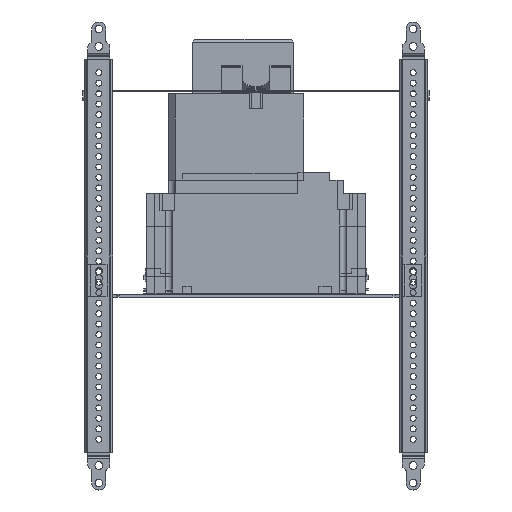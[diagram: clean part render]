
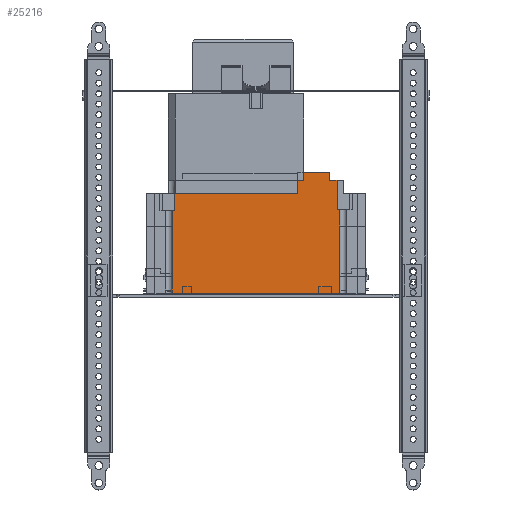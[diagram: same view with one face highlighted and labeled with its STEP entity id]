
A CAD part, left-side view. The second image highlights one B-rep face of the part: STEP entity #25216.
In plain terms, the highlighted planar face has unit normal (-1, 0, 0).
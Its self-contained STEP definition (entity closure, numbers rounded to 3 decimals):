
#13276=CARTESIAN_POINT(' ',(-266.811,-53.186,-65.147));
#13277=VERTEX_POINT(' ',#13276);
#13291=CARTESIAN_POINT(' ',(-266.811,-53.186,-65.147));
#13296=DIRECTION(' ',(0.,1.,0.));
#13301=VECTOR(' ',#13296,1.);
#13306=LINE('',#13291,#13301);
#13311=CARTESIAN_POINT(' ',(-266.811,59.234,-65.147));
#13312=VERTEX_POINT(' ',#13311);
#13316=EDGE_CURVE(' ',#13277,#13312,#13306,.T.);
#16686=CARTESIAN_POINT(' ',(-266.811,61.034,6.704));
#16687=VERTEX_POINT(' ',#16686);
#16701=CARTESIAN_POINT(' ',(-266.811,-26.993,6.704));
#16706=DIRECTION(' ',(0.,1.,0.));
#16711=VECTOR(' ',#16706,1.);
#16716=LINE('',#16701,#16711);
#16721=CARTESIAN_POINT(' ',(-266.811,-26.993,6.704));
#16722=VERTEX_POINT(' ',#16721);
#16726=EDGE_CURVE(' ',#16722,#16687,#16716,.T.);
#24631=CARTESIAN_POINT(' ',(-266.811,-53.186,-65.147));
#24636=DIRECTION(' ',(0.,0.,1.));
#24641=VECTOR(' ',#24636,1.);
#24646=LINE('',#24631,#24641);
#24651=CARTESIAN_POINT(' ',(-266.811,-53.186,-64.647));
#24652=VERTEX_POINT(' ',#24651);
#24656=EDGE_CURVE(' ',#13277,#24652,#24646,.T.);
#24721=DIRECTION(' ',(-1.,0.,0.));
#24726=CARTESIAN_POINT(' ',(-266.811,-56.888,-65.147));
#24731=DIRECTION(' ',(0.,-0.,1.));
#24736=AXIS2_PLACEMENT_3D(' ',#24726,#24721,#24731);
#24741=PLANE('NONE',#24736);
#24746=CARTESIAN_POINT(' ',(-266.811,-56.888,-5.216));
#24751=DIRECTION(' ',(0.,0.,-1.));
#24756=VECTOR(' ',#24751,1.);
#24761=LINE('',#24746,#24756);
#24766=CARTESIAN_POINT(' ',(-266.811,-56.888,-5.216));
#24767=VERTEX_POINT(' ',#24766);
#24771=CARTESIAN_POINT(' ',(-266.811,-56.888,-64.647));
#24772=VERTEX_POINT(' ',#24771);
#24776=EDGE_CURVE(' ',#24767,#24772,#24761,.T.);
#24781=ORIENTED_EDGE(' ',*,*,#24776,.F.);
#24786=CARTESIAN_POINT(' ',(-266.811,-54.988,-5.216));
#24791=DIRECTION(' ',(0.,-1.,0.));
#24796=VECTOR(' ',#24791,1.);
#24801=LINE('',#24786,#24796);
#24806=CARTESIAN_POINT(' ',(-266.811,-54.988,-5.216));
#24807=VERTEX_POINT(' ',#24806);
#24811=EDGE_CURVE(' ',#24807,#24767,#24801,.T.);
#24816=ORIENTED_EDGE(' ',*,*,#24811,.F.);
#24821=CARTESIAN_POINT(' ',(-266.811,-54.988,15.994));
#24826=DIRECTION(' ',(0.,0.,-1.));
#24831=VECTOR(' ',#24826,1.);
#24836=LINE('',#24821,#24831);
#24841=CARTESIAN_POINT(' ',(-266.811,-54.988,15.994));
#24842=VERTEX_POINT(' ',#24841);
#24846=EDGE_CURVE(' ',#24842,#24807,#24836,.T.);
#24851=ORIENTED_EDGE(' ',*,*,#24846,.F.);
#24856=CARTESIAN_POINT(' ',(-266.811,-49.491,15.994));
#24861=DIRECTION(' ',(0.,-1.,0.));
#24866=VECTOR(' ',#24861,1.);
#24871=LINE('',#24856,#24866);
#24876=CARTESIAN_POINT(' ',(-266.811,-49.491,15.994));
#24877=VERTEX_POINT(' ',#24876);
#24881=EDGE_CURVE(' ',#24877,#24842,#24871,.T.);
#24886=ORIENTED_EDGE(' ',*,*,#24881,.F.);
#24891=CARTESIAN_POINT(' ',(-266.811,-49.491,21.844));
#24896=DIRECTION(' ',(0.,0.,-1.));
#24901=VECTOR(' ',#24896,1.);
#24906=LINE('',#24891,#24901);
#24911=CARTESIAN_POINT(' ',(-266.811,-49.491,21.844));
#24912=VERTEX_POINT(' ',#24911);
#24916=EDGE_CURVE(' ',#24912,#24877,#24906,.T.);
#24921=ORIENTED_EDGE(' ',*,*,#24916,.F.);
#24926=CARTESIAN_POINT(' ',(-266.811,-26.993,21.844));
#24931=DIRECTION(' ',(0.,-1.,0.));
#24936=VECTOR(' ',#24931,1.);
#24941=LINE('',#24926,#24936);
#24946=CARTESIAN_POINT(' ',(-266.811,-26.993,21.844));
#24947=VERTEX_POINT(' ',#24946);
#24951=EDGE_CURVE(' ',#24947,#24912,#24941,.T.);
#24956=ORIENTED_EDGE(' ',*,*,#24951,.F.);
#24961=CARTESIAN_POINT(' ',(-266.811,-26.993,21.844));
#24966=DIRECTION(' ',(0.,0.,-1.));
#24971=VECTOR(' ',#24966,1.);
#24976=LINE('',#24961,#24971);
#24981=EDGE_CURVE(' ',#24947,#16722,#24976,.T.);
#24986=ORIENTED_EDGE(' ',*,*,#24981,.T.);
#24991=ORIENTED_EDGE(' ',*,*,#16726,.T.);
#24996=CARTESIAN_POINT(' ',(-266.811,61.034,6.704));
#25001=DIRECTION(' ',(0.,0.,-1.));
#25006=VECTOR(' ',#25001,1.);
#25011=LINE('',#24996,#25006);
#25016=CARTESIAN_POINT(' ',(-266.811,61.034,-5.596));
#25017=VERTEX_POINT(' ',#25016);
#25021=EDGE_CURVE(' ',#16687,#25017,#25011,.T.);
#25026=ORIENTED_EDGE(' ',*,*,#25021,.T.);
#25031=CARTESIAN_POINT(' ',(-266.811,61.034,-5.596));
#25036=DIRECTION(' ',(0.,1.,0.));
#25041=VECTOR(' ',#25036,1.);
#25046=LINE('',#25031,#25041);
#25051=CARTESIAN_POINT(' ',(-266.811,62.936,-5.596));
#25052=VERTEX_POINT(' ',#25051);
#25056=EDGE_CURVE(' ',#25017,#25052,#25046,.T.);
#25061=ORIENTED_EDGE(' ',*,*,#25056,.T.);
#25066=CARTESIAN_POINT(' ',(-266.811,62.936,-64.647));
#25071=DIRECTION(' ',(0.,0.,1.));
#25076=VECTOR(' ',#25071,1.);
#25081=LINE('',#25066,#25076);
#25086=CARTESIAN_POINT(' ',(-266.811,62.936,-64.647));
#25087=VERTEX_POINT(' ',#25086);
#25091=EDGE_CURVE(' ',#25087,#25052,#25081,.T.);
#25096=ORIENTED_EDGE(' ',*,*,#25091,.F.);
#25101=CARTESIAN_POINT(' ',(-266.811,62.936,-64.647));
#25106=DIRECTION(' ',(0.,-1.,0.));
#25111=VECTOR(' ',#25106,1.);
#25116=LINE('',#25101,#25111);
#25121=CARTESIAN_POINT(' ',(-266.811,59.234,-64.647));
#25122=VERTEX_POINT(' ',#25121);
#25126=EDGE_CURVE(' ',#25087,#25122,#25116,.T.);
#25131=ORIENTED_EDGE(' ',*,*,#25126,.T.);
#25136=CARTESIAN_POINT(' ',(-266.811,59.234,-65.147));
#25141=DIRECTION(' ',(0.,0.,1.));
#25146=VECTOR(' ',#25141,1.);
#25151=LINE('',#25136,#25146);
#25156=EDGE_CURVE(' ',#13312,#25122,#25151,.T.);
#25161=ORIENTED_EDGE(' ',*,*,#25156,.F.);
#25166=ORIENTED_EDGE(' ',*,*,#13316,.F.);
#25171=ORIENTED_EDGE(' ',*,*,#24656,.T.);
#25176=CARTESIAN_POINT(' ',(-266.811,-56.888,-64.647));
#25181=DIRECTION(' ',(0.,1.,0.));
#25186=VECTOR(' ',#25181,1.);
#25191=LINE('',#25176,#25186);
#25196=EDGE_CURVE(' ',#24772,#24652,#25191,.T.);
#25201=ORIENTED_EDGE(' ',*,*,#25196,.F.);
#25206=EDGE_LOOP(' ',(#24781,#24816,#24851,#24886,#24921,#24956,#24986,#24991,#25026,#25061,#25096,#25131,#25161,#25166,#25171,#25201));
#25211=FACE_OUTER_BOUND(' ',#25206,.T.);
#25216=ADVANCED_FACE('NONE',(#25211),#24741,.T.);
